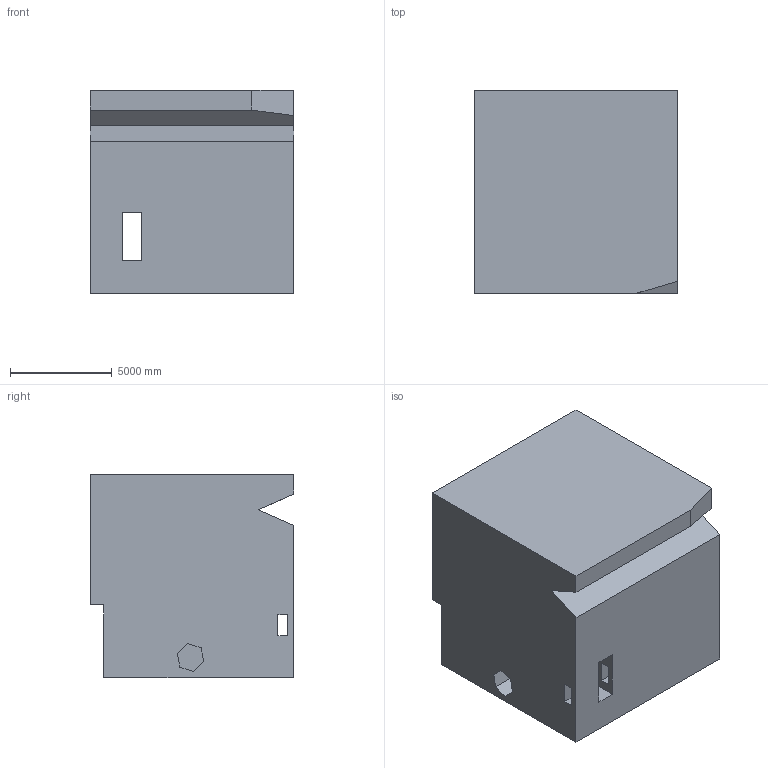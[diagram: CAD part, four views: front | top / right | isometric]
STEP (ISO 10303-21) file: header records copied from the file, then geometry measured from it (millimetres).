
FILE_DESCRIPTION (( 'STEP AP203' ), '1' );
FILE_NAME ('55.STEP', '2022-09-01T11:48:54', ( 'user' ), ( '' ), 'SwSTEP 2.0', 'SolidWorks 2021', '' );
FILE_SCHEMA (( 'CONFIG_CONTROL_DESIGN' ));
Length unit declared in the file: centimetre
Products named in the file (1): 55
Bounding box: 10000 x 10000 x 10000 mm (x, y, z)
Volume: 907243248598.2 mm3; surface area: 716351113.9 mm2
Topology: 1 solids, 1 shells, 33 faces, 99 edges, 66 vertices
Faces by surface type: plane 33
Entity records: 1186 total; most frequent: CARTESIAN_POINT 199, ORIENTED_EDGE 198, DIRECTION 167, EDGE_CURVE 99, LINE 99, VECTOR 99, VERTEX_POINT 66, EDGE_LOOP 39
